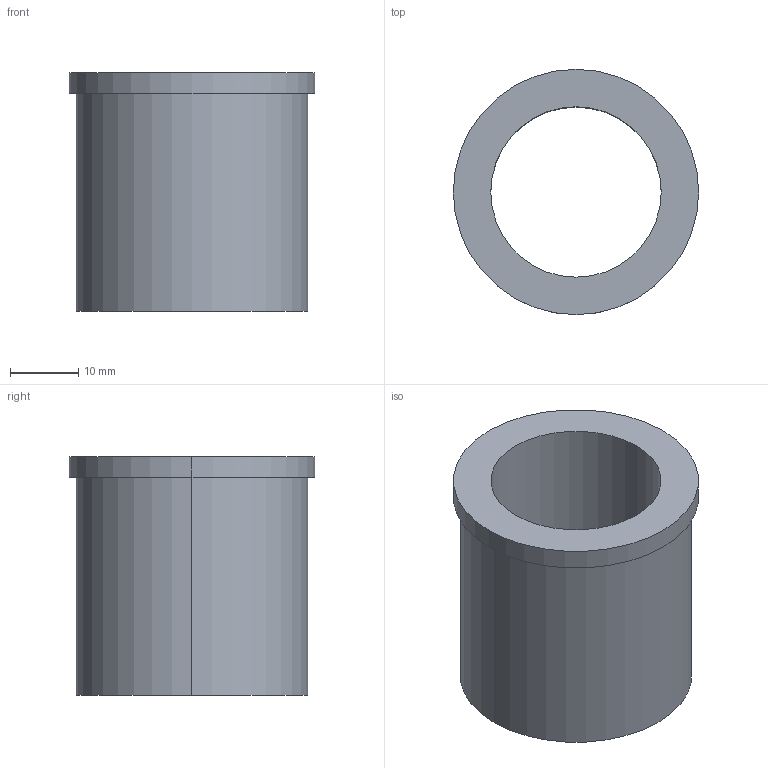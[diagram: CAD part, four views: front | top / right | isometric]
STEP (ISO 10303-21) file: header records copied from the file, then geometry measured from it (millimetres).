
FILE_DESCRIPTION(/* description */ (''),/* implementation_level */ '2;1');
FILE_NAME(/* name */ '3d_tgfz25-35_00395_r00.stp',/* time_stamp */ '2011-01-10T14:09:02+09:00',/* author */ ('MISUMI'),/* organization */ (''),/* preprocessor_version */ 'ST-DEVELOPER v11',/* originating_system */ 'UGS - NX 5.0',/* authorisation */ '');
FILE_SCHEMA (('CONFIG_CONTROL_DESIGN'));
Length unit declared in the file: millimetre
Products named in the file (1): 3d_tgfz25-35_00395_r00
Bounding box: 36 x 36 x 35 mm (x, y, z)
Volume: 14926.5 mm3; surface area: 7560.2 mm2
Topology: 1 solids, 1 shells, 9 faces, 18 edges, 12 vertices
Faces by surface type: cylinder 6, plane 3
Entity records: 334 total; most frequent: DIRECTION 50, CARTESIAN_POINT 40, ORIENTED_EDGE 36, AXIS2_PLACEMENT_3D 22, EDGE_CURVE 18, EDGE_LOOP 12, CIRCLE 12, VERTEX_POINT 12
